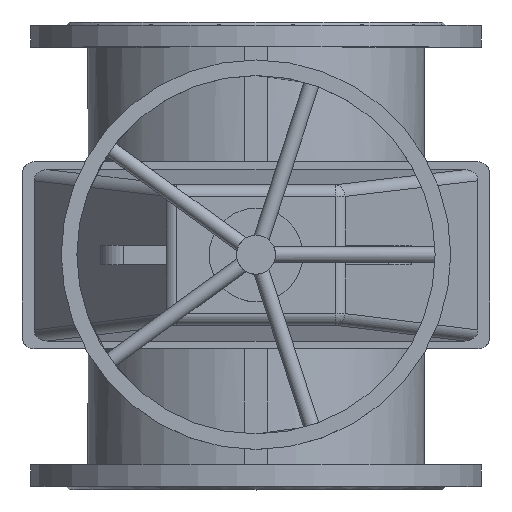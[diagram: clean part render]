
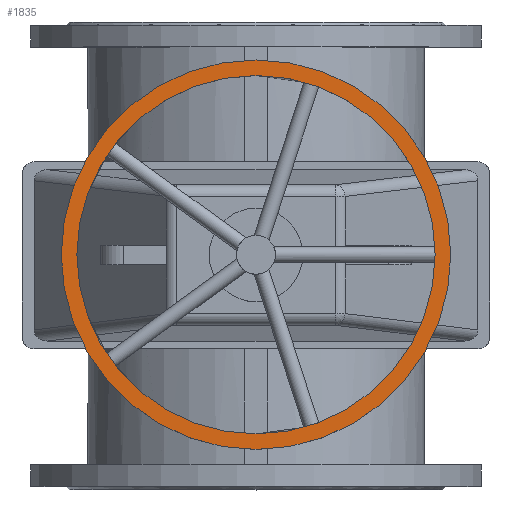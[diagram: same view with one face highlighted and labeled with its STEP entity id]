
A CAD part, top view. The second image highlights one B-rep face of the part: STEP entity #1835.
In plain terms, the highlighted planar face has unit normal (0, 0, 1).
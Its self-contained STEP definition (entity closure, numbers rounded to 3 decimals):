
#1835=ADVANCED_FACE('',(#4276,#4278),#4280,.T.);
#4276=FACE_BOUND('',#4277,.T.);
#4277=EDGE_LOOP('',(#5413));
#4278=FACE_BOUND('',#4279,.T.);
#4279=EDGE_LOOP('',(#5414));
#4280=PLANE('',#4281);
#4281=AXIS2_PLACEMENT_3D('',#4282,#4283,#4284);
#4282=CARTESIAN_POINT('',(0.,0.,950.5));
#4283=DIRECTION('',(0.,0.,1.));
#4284=DIRECTION('',(0.,-1.,0.));
#5413=ORIENTED_EDGE('',*,*,#5975,.T.);
#5414=ORIENTED_EDGE('',*,*,#5973,.T.);
#5973=EDGE_CURVE('',#6915,#6915,#6916,.F.);
#5975=EDGE_CURVE('',#6919,#6919,#6920,.T.);
#6915=VERTEX_POINT('',#12077);
#6916=CIRCLE('',#12078,230.);
#6919=VERTEX_POINT('',#12087);
#6920=CIRCLE('',#12088,250.);
#12077=CARTESIAN_POINT('',(0.,-230.,950.5));
#12078=AXIS2_PLACEMENT_3D('',#12079,#12080,#12081);
#12079=CARTESIAN_POINT('',(0.,0.,950.5));
#12080=DIRECTION('',(0.,0.,1.));
#12081=DIRECTION('',(0.,-1.,0.));
#12087=CARTESIAN_POINT('',(0.,-250.,950.5));
#12088=AXIS2_PLACEMENT_3D('',#12089,#12090,#12091);
#12089=CARTESIAN_POINT('',(0.,0.,950.5));
#12090=DIRECTION('',(0.,0.,1.));
#12091=DIRECTION('',(0.,-1.,0.));
